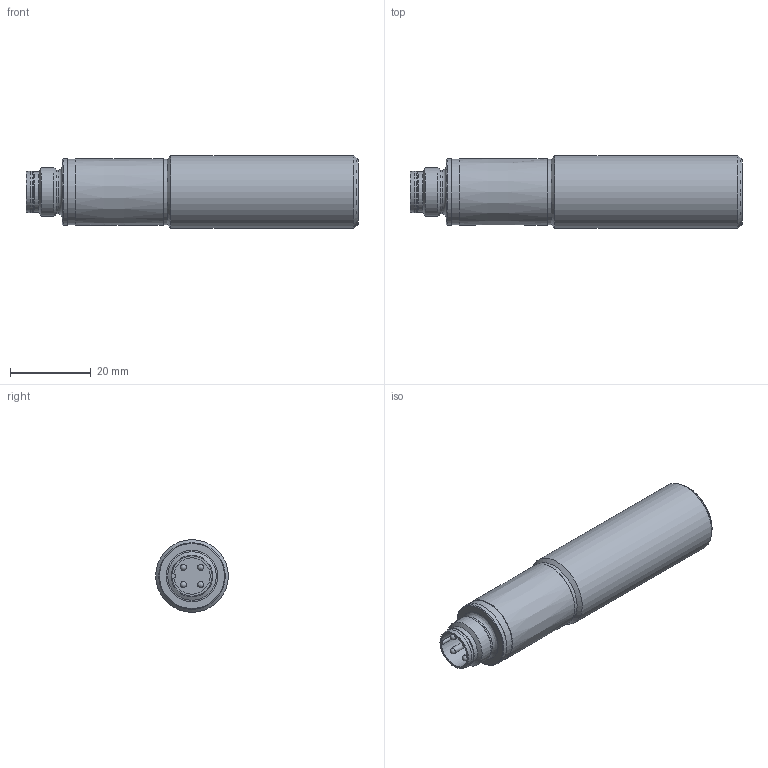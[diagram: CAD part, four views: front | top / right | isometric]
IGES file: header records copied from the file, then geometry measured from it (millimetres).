
Global section: file name: No Iges File Name specified; native system: AutoDesk Inventor R6.1; preprocessor: AutoDesk Inventor Iges Exporter R6.1; author: No Author specified; organization: No Organization specified; date: 20050809.112839; units: millimetre
Bounding box: 82.28 x 18 x 18 mm (x, y, z)
Surface area: 5165.4 mm2 (no closed solid volume)
Topology: 0 solids, 0 shells, 42 faces, 127 edges, 92 vertices
Faces by surface type: revolution 32, plane 9, bspline 1
